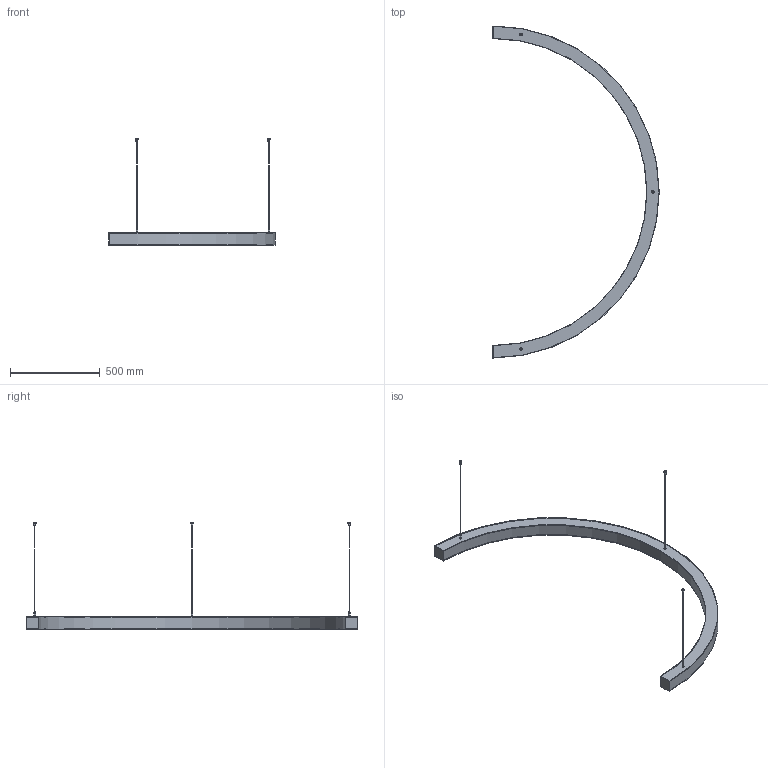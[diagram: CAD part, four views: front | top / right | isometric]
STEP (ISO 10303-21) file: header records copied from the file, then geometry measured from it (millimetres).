
FILE_DESCRIPTION(('STEP AP203'), '1');
FILE_NAME('Half RIN 70 1850mm', '', ('UNSPECIFIED'), ('UNSPECIFIED'), 'C3D Converter', 'C3D Toolkit', '');
FILE_SCHEMA(('CONFIG_CONTROL_DESIGN'));
Length unit declared in the file: millimetre
Assembly tree (13 placements, depth 4):
  (unnamed)
    (unnamed)
    (unnamed)
    (unnamed)
    (unnamed)  x2
    (unnamed)  x3
      (unnamed)
        (unnamed)
        (unnamed)
      (unnamed)
      (unnamed)
Bounding box: 927.5 x 1850 x 593 mm (x, y, z)
Volume: 1254470.6 mm3; surface area: 1700363.9 mm2
Topology: 18 solids, 18 shells, 163 faces, 315 edges, 209 vertices
Faces by surface type: plane 111, cylinder 49, cone 3
Full cylindrical faces by diameter (mm): 2 x3, 2.5 x3, 4 x3, 4.5 x3, 4.7 x3, 5 x6, 6 x3, 8.8 x3, 9 x6, 11 x3, 15 x3
Entity records: 2699 total; most frequent: DIRECTION 380, CARTESIAN_POINT 333, ORIENTED_EDGE 278, AXIS2_PLACEMENT_3D 150, EDGE_CURVE 139, EDGE_LOOP 108, VERTEX_POINT 103, LINE 80
